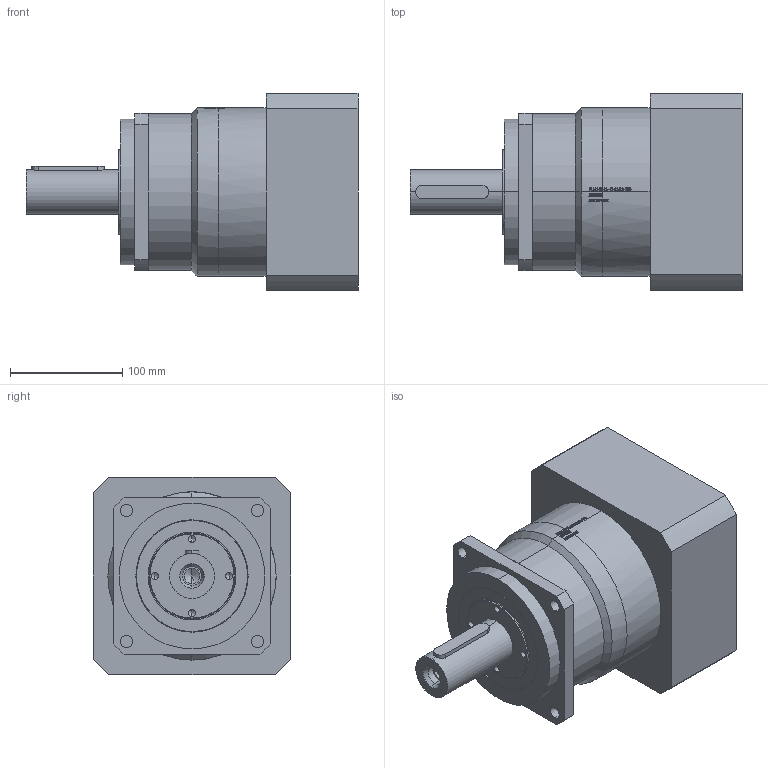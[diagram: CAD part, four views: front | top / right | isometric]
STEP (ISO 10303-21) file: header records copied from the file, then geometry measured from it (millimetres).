
FILE_DESCRIPTION (( 'STEP AP203' ), '1' );
FILE_NAME ('PLM140-L1-42-114.3-200.STEP', '2022-07-05T06:25:22', ( 'Windows User' ), ( 'P R C' ), 'SwSTEP 2.0', 'SolidWorks 2016', '' );
FILE_SCHEMA (( 'CONFIG_CONTROL_DESIGN' ));
Length unit declared in the file: millimetre
Products named in the file (8): PM140 蟀諉啣 176選 114.3x10 200xM12 82L-LR120; 邧埴瑩 12x8x65; TC75-100-10_TC-34.9-55-7; TC70-95-8_TC-34.9-55-7; 囀鞠褒蹟佪-M10℅30; PLM140-L1-42-114.3-200; PA140奻裔啣; PA140狟裔啣-42
Assembly tree (7 placements, depth 2):
  PLM140-L1-42-114.3-200
    PA140奻裔啣
    PA140狟裔啣-42
    PM140 蟀諉啣 176選 114.3x10 200xM12 82L-LR120
    邧埴瑩 12x8x65
    TC75-100-10_TC-34.9-55-7
    TC70-95-8_TC-34.9-55-7
    囀鞠褒蹟佪-M10℅30
Bounding box: 296 x 176 x 176 mm (x, y, z)
Volume: 4117528.6 mm3; surface area: 377823.4 mm2
Topology: 7 solids, 7 shells, 924 faces, 2408 edges, 1570 vertices
Faces by surface type: plane 541, bspline 176, cylinder 163, cone 44
Entity records: 37236 total; most frequent: CARTESIAN_POINT 14563, ORIENTED_EDGE 4780, DIRECTION 4087, EDGE_CURVE 2390, VERTEX_POINT 1570, VECTOR 1451, LINE 1451, AXIS2_PLACEMENT_3D 1318
